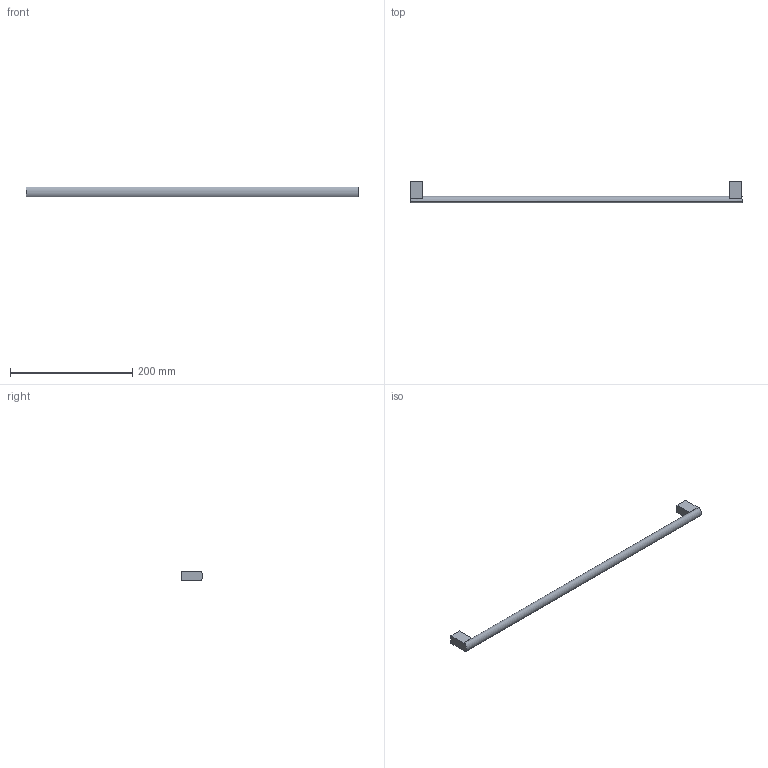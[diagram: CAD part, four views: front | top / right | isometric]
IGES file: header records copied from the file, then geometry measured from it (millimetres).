
Start section: Data from Parasolid IGES Translator 20.0.26, Copyright(c) 2006 Siemens P LM Software. All Rights Reserved.
Global section: file name: 115362.igs; native system: By Siemens PLM Incorporated; preprocessor: XPlus GENERIC/IGES 20.0.26; author: Noname; organization: Noname; date: 20230220.163721; units: millimetre
Bounding box: 544 x 35.96 x 16 mm (x, y, z)
Surface area: 27516.8 mm2 (no closed solid volume)
Topology: 0 solids, 0 shells, 22 faces, 102 edges, 100 vertices
Faces by surface type: extrusion 17, revolution 5
